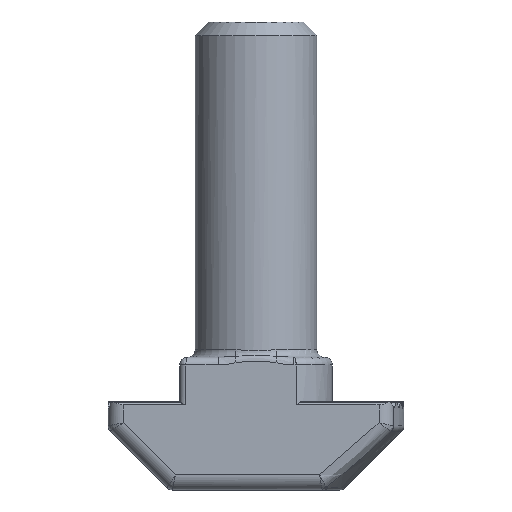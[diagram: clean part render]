
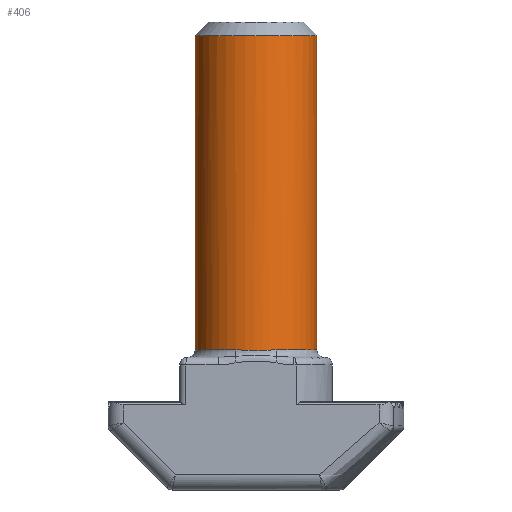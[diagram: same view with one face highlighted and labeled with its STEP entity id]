
A CAD part, front view. The second image highlights one B-rep face of the part: STEP entity #406.
In plain terms, the highlighted cylindrical face has radius 4 mm (diameter 8 mm), a partial arc.
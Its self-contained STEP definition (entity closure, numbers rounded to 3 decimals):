
#406=ADVANCED_FACE('NONE',(#843),#844,.T.);
#843=FACE_OUTER_BOUND('',#1838,.T.);
#844=CYLINDRICAL_SURFACE('',#1839,4.0);
#1838=EDGE_LOOP('',(#3014,#3015,#3016,#3017,#3018,#3019));
#1839=AXIS2_PLACEMENT_3D('',#3020,#3021,#3022);
#3014=ORIENTED_EDGE('',*,*,#3748,.F.);
#3015=ORIENTED_EDGE('',*,*,#3554,.T.);
#3016=ORIENTED_EDGE('',*,*,#3751,.T.);
#3017=ORIENTED_EDGE('',*,*,#3590,.T.);
#3018=ORIENTED_EDGE('',*,*,#3857,.T.);
#3019=ORIENTED_EDGE('',*,*,#3758,.T.);
#3020=CARTESIAN_POINT('',(0.0,0.0,30.7));
#3021=DIRECTION('',(0.0,0.0,1.0));
#3022=DIRECTION('',(-1.0,0.0,0.0));
#3554=EDGE_CURVE('NONE',#4193,#4195,#4228,.T.);
#3590=EDGE_CURVE('NONE',#4276,#4283,#4285,.T.);
#3748=EDGE_CURVE('NONE',#4193,#4513,#4514,.T.);
#3751=EDGE_CURVE('NONE',#4195,#4276,#4517,.T.);
#3758=EDGE_CURVE('NONE',#4524,#4513,#4525,.T.);
#3857=EDGE_CURVE('NONE',#4283,#4524,#4639,.T.);
#4193=VERTEX_POINT('NONE',#5421);
#4195=VERTEX_POINT('NONE',#5424);
#4228=CIRCLE('',#5519,4.0);
#4276=VERTEX_POINT('NONE',#5664);
#4283=VERTEX_POINT('NONE',#5674);
#4285=CIRCLE('',#5676,4.0);
#4513=VERTEX_POINT('NONE',#6474);
#4514=LINE('',#6475,#6476);
#4517=LINE('',#6479,#6480);
#4524=VERTEX_POINT('NONE',#6487);
#4525=CIRCLE('',#6488,4.0);
#4639=B_SPLINE_CURVE_WITH_KNOTS('',3,(#6828,#6829,#6830,#6831,#6832,#6833,#6834,#6835,#6836,#6837),.UNSPECIFIED.,.F.,.F.,(4,2,2,2,4),(0.0,0.001,0.001,0.002,0.003),.UNSPECIFIED.);
#5421=CARTESIAN_POINT('',(4.0,0.,29.8));
#5424=CARTESIAN_POINT('',(-4.0,0.0,29.8));
#5519=AXIS2_PLACEMENT_3D('',#7167,#7168,#7169);
#5664=CARTESIAN_POINT('',(-4.0,0.0,9.2));
#5674=CARTESIAN_POINT('',(-1.315,-3.778,9.2));
#5676=AXIS2_PLACEMENT_3D('',#7194,#7195,#7196);
#6474=CARTESIAN_POINT('',(4.0,0.,9.2));
#6475=CARTESIAN_POINT('',(4.0,0.,30.7));
#6476=VECTOR('',#7305,1000.0);
#6479=CARTESIAN_POINT('',(-4.0,0.0,30.7));
#6480=VECTOR('',#7312,1000.0);
#6487=CARTESIAN_POINT('',(1.315,-3.778,9.2));
#6488=AXIS2_PLACEMENT_3D('',#7322,#7323,#7324);
#6828=CARTESIAN_POINT('',(-1.315,-3.778,9.2));
#6829=CARTESIAN_POINT('',(-1.101,-3.852,9.2));
#6830=CARTESIAN_POINT('',(-0.886,-3.907,9.18));
#6831=CARTESIAN_POINT('',(-0.447,-3.981,9.147));
#6832=CARTESIAN_POINT('',(-0.222,-4.,9.133));
#6833=CARTESIAN_POINT('',(0.226,-4.,9.133));
#6834=CARTESIAN_POINT('',(0.447,-3.981,9.147));
#6835=CARTESIAN_POINT('',(0.885,-3.907,9.18));
#6836=CARTESIAN_POINT('',(1.102,-3.852,9.2));
#6837=CARTESIAN_POINT('',(1.315,-3.778,9.2));
#7167=CARTESIAN_POINT('',(0.0,0.0,29.8));
#7168=DIRECTION('',(0.0,0.0,-1.0));
#7169=DIRECTION('',(1.0,0.0,0.0));
#7194=CARTESIAN_POINT('',(0.0,0.0,9.2));
#7195=DIRECTION('',(0.0,0.0,1.0));
#7196=DIRECTION('',(1.0,0.0,0.0));
#7305=DIRECTION('',(-0.0,-0.0,-1.0));
#7312=DIRECTION('',(-0.0,-0.0,-1.0));
#7322=CARTESIAN_POINT('',(0.0,0.0,9.2));
#7323=DIRECTION('',(0.0,0.0,1.0));
#7324=DIRECTION('',(1.0,0.0,0.0));
